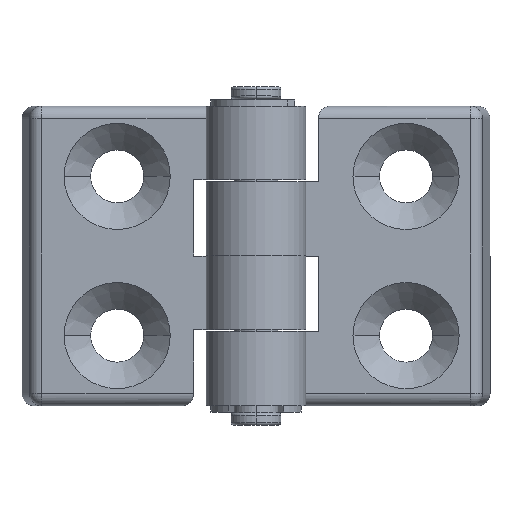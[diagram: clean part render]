
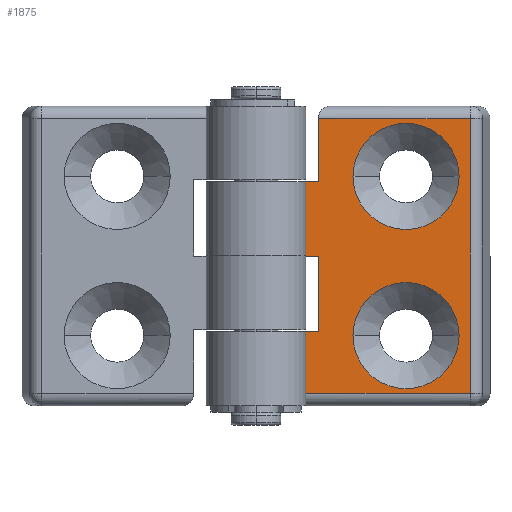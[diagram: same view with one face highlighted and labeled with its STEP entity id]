
A CAD part, top view. The second image highlights one B-rep face of the part: STEP entity #1875.
In plain terms, the highlighted planar face has unit normal (0, 0, 1).
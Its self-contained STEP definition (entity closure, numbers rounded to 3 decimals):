
#19 = CARTESIAN_POINT ( 'NONE',  ( 0., 0., 4. ) ) ;
#32 = EDGE_CURVE ( 'NONE', #2078, #3171, #3427, .T. ) ;
#44 = ORIENTED_EDGE ( 'NONE', *, *, #1597, .T. ) ;
#45 = AXIS2_PLACEMENT_3D ( 'NONE', #3273, #2983, #1356 ) ;
#47 = DIRECTION ( 'NONE',  ( 1., 0., 0. ) ) ;
#70 = CARTESIAN_POINT ( 'NONE',  ( -14.55, 24., 4. ) ) ;
#171 = FACE_BOUND ( 'NONE', #1673, .T. ) ;
#177 = CARTESIAN_POINT ( 'NONE',  ( -7., 12.75, 4. ) ) ;
#185 = VECTOR ( 'NONE', #3009, 1000. ) ;
#249 = CARTESIAN_POINT ( 'NONE',  ( -12.55, 11.9, 4. ) ) ;
#265 = LINE ( 'NONE', #3428, #1626 ) ;
#266 = CARTESIAN_POINT ( 'NONE',  ( -12.55, 22., 4. ) ) ;
#284 = VECTOR ( 'NONE', #2196, 1000. ) ;
#294 = EDGE_CURVE ( 'NONE', #440, #583, #2486, .T. ) ;
#310 = VECTOR ( 'NONE', #338, 1000. ) ;
#338 = DIRECTION ( 'NONE',  ( 0., -1., 0. ) ) ;
#395 = ORIENTED_EDGE ( 'NONE', *, *, #294, .T. ) ;
#439 = FACE_BOUND ( 'NONE', #1311, .T. ) ;
#440 = VERTEX_POINT ( 'NONE', #1737 ) ;
#446 = CARTESIAN_POINT ( 'NONE',  ( 10., 12.75, 4. ) ) ;
#471 = VERTEX_POINT ( 'NONE', #2026 ) ;
#472 = CARTESIAN_POINT ( 'NONE',  ( 0., -12.1, 4. ) ) ;
#474 = ORIENTED_EDGE ( 'NONE', *, *, #884, .T. ) ;
#496 = AXIS2_PLACEMENT_3D ( 'NONE', #1486, #1791, #3387 ) ;
#512 = CIRCLE ( 'NONE', #496, 8.5 ) ;
#524 = ORIENTED_EDGE ( 'NONE', *, *, #2138, .T. ) ;
#531 = VERTEX_POINT ( 'NONE', #2323 ) ;
#552 = EDGE_CURVE ( 'NONE', #3456, #2455, #512, .T. ) ;
#583 = VERTEX_POINT ( 'NONE', #658 ) ;
#612 = AXIS2_PLACEMENT_3D ( 'NONE', #1687, #1362, #47 ) ;
#621 = EDGE_CURVE ( 'NONE', #531, #1733, #265, .T. ) ;
#643 = EDGE_CURVE ( 'NONE', #3336, #1863, #894, .T. ) ;
#651 = CARTESIAN_POINT ( 'NONE',  ( -14.55, -22., 4. ) ) ;
#658 = CARTESIAN_POINT ( 'NONE',  ( -7., -12.75, 4. ) ) ;
#818 = EDGE_CURVE ( 'NONE', #3475, #3171, #2000, .T. ) ;
#834 = EDGE_CURVE ( 'NONE', #1604, #2104, #1824, .T. ) ;
#853 = ORIENTED_EDGE ( 'NONE', *, *, #818, .T. ) ;
#855 = EDGE_CURVE ( 'NONE', #2455, #3456, #1666, .T. ) ;
#884 = EDGE_CURVE ( 'NONE', #2078, #3336, #3120, .T. ) ;
#894 = LINE ( 'NONE', #942, #1530 ) ;
#909 = LINE ( 'NONE', #2725, #185 ) ;
#942 = CARTESIAN_POINT ( 'NONE',  ( 13.45, -22., 4. ) ) ;
#952 = LINE ( 'NONE', #266, #3049 ) ;
#1123 = CARTESIAN_POINT ( 'NONE',  ( 11.79, 0., 4. ) ) ;
#1129 = ORIENTED_EDGE ( 'NONE', *, *, #855, .F. ) ;
#1160 = CARTESIAN_POINT ( 'NONE',  ( 1.5, -12.75, 4. ) ) ;
#1170 = CARTESIAN_POINT ( 'NONE',  ( -12.55, 0., 4. ) ) ;
#1203 = VECTOR ( 'NONE', #3311, 1000. ) ;
#1265 = ORIENTED_EDGE ( 'NONE', *, *, #3151, .T. ) ;
#1311 = EDGE_LOOP ( 'NONE', ( #1450, #1129 ) ) ;
#1356 = DIRECTION ( 'NONE',  ( 1., 0., 0. ) ) ;
#1360 = DIRECTION ( 'NONE',  ( -1., 0., 0. ) ) ;
#1362 = DIRECTION ( 'NONE',  ( 0., 0., 1. ) ) ;
#1368 = LINE ( 'NONE', #1123, #2723 ) ;
#1437 = ORIENTED_EDGE ( 'NONE', *, *, #3147, .F. ) ;
#1448 = DIRECTION ( 'NONE',  ( 1., 0., 0. ) ) ;
#1450 = ORIENTED_EDGE ( 'NONE', *, *, #552, .F. ) ;
#1464 = DIRECTION ( 'NONE',  ( 0., -1., 0. ) ) ;
#1486 = CARTESIAN_POINT ( 'NONE',  ( 1.5, 12.75, 4. ) ) ;
#1530 = VECTOR ( 'NONE', #3149, 1000. ) ;
#1574 = DIRECTION ( 'NONE',  ( 1., 0., 0. ) ) ;
#1576 = VECTOR ( 'NONE', #2758, 1000. ) ;
#1597 = EDGE_CURVE ( 'NONE', #583, #440, #1756, .T. ) ;
#1604 = VERTEX_POINT ( 'NONE', #2638 ) ;
#1626 = VECTOR ( 'NONE', #1464, 1000. ) ;
#1631 = FACE_OUTER_BOUND ( 'NONE', #2479, .T. ) ;
#1642 = CARTESIAN_POINT ( 'NONE',  ( -14.55, 24., 4. ) ) ;
#1660 = CARTESIAN_POINT ( 'NONE',  ( -14.55, 0., 4. ) ) ;
#1666 = CIRCLE ( 'NONE', #612, 8.5 ) ;
#1673 = EDGE_LOOP ( 'NONE', ( #395, #44 ) ) ;
#1687 = CARTESIAN_POINT ( 'NONE',  ( 1.5, 12.75, 4. ) ) ;
#1695 = ORIENTED_EDGE ( 'NONE', *, *, #643, .T. ) ;
#1733 = VERTEX_POINT ( 'NONE', #249 ) ;
#1737 = CARTESIAN_POINT ( 'NONE',  ( 10., -12.75, 4. ) ) ;
#1756 = CIRCLE ( 'NONE', #1817, 8.5 ) ;
#1791 = DIRECTION ( 'NONE',  ( 0., 0., 1. ) ) ;
#1811 = ORIENTED_EDGE ( 'NONE', *, *, #834, .T. ) ;
#1817 = AXIS2_PLACEMENT_3D ( 'NONE', #2928, #3488, #1574 ) ;
#1824 = LINE ( 'NONE', #1642, #310 ) ;
#1863 = VERTEX_POINT ( 'NONE', #2464 ) ;
#1875 = ADVANCED_FACE ( 'NONE', ( #171, #439, #1631 ), #2702, .T. ) ;
#1920 = CARTESIAN_POINT ( 'NONE',  ( -12.55, -12.1, 4. ) ) ;
#2000 = LINE ( 'NONE', #1170, #1203 ) ;
#2026 = CARTESIAN_POINT ( 'NONE',  ( 11.79, 22., 4. ) ) ;
#2075 = CARTESIAN_POINT ( 'NONE',  ( -12.55, 0., 4. ) ) ;
#2078 = VERTEX_POINT ( 'NONE', #2926 ) ;
#2104 = VERTEX_POINT ( 'NONE', #1660 ) ;
#2138 = EDGE_CURVE ( 'NONE', #1863, #471, #1368, .T. ) ;
#2196 = DIRECTION ( 'NONE',  ( 1., 0., 0. ) ) ;
#2323 = CARTESIAN_POINT ( 'NONE',  ( -12.55, 22., 4. ) ) ;
#2356 = LINE ( 'NONE', #19, #284 ) ;
#2424 = DIRECTION ( 'NONE',  ( 0., 1., 0. ) ) ;
#2455 = VERTEX_POINT ( 'NONE', #177 ) ;
#2464 = CARTESIAN_POINT ( 'NONE',  ( 11.79, -22., 4. ) ) ;
#2479 = EDGE_LOOP ( 'NONE', ( #524, #3094, #2572, #1437, #1811, #1265, #853, #3398, #474, #1695 ) ) ;
#2486 = CIRCLE ( 'NONE', #3382, 8.5 ) ;
#2572 = ORIENTED_EDGE ( 'NONE', *, *, #621, .T. ) ;
#2638 = CARTESIAN_POINT ( 'NONE',  ( -14.55, 11.9, 4. ) ) ;
#2702 = PLANE ( 'NONE',  #45 ) ;
#2723 = VECTOR ( 'NONE', #2424, 1000. ) ;
#2725 = CARTESIAN_POINT ( 'NONE',  ( 0., 11.9, 4. ) ) ;
#2758 = DIRECTION ( 'NONE',  ( 0., -1., 0. ) ) ;
#2925 = EDGE_CURVE ( 'NONE', #471, #531, #952, .T. ) ;
#2926 = CARTESIAN_POINT ( 'NONE',  ( -14.55, -12.1, 4. ) ) ;
#2928 = CARTESIAN_POINT ( 'NONE',  ( 1.5, -12.75, 4. ) ) ;
#2983 = DIRECTION ( 'NONE',  ( 0., 0., 1. ) ) ;
#3009 = DIRECTION ( 'NONE',  ( 1., 0., 0. ) ) ;
#3049 = VECTOR ( 'NONE', #1360, 1000. ) ;
#3094 = ORIENTED_EDGE ( 'NONE', *, *, #2925, .T. ) ;
#3107 = DIRECTION ( 'NONE',  ( 0., 0., -1. ) ) ;
#3120 = LINE ( 'NONE', #70, #1576 ) ;
#3147 = EDGE_CURVE ( 'NONE', #1604, #1733, #909, .T. ) ;
#3149 = DIRECTION ( 'NONE',  ( 1., 0., 0. ) ) ;
#3151 = EDGE_CURVE ( 'NONE', #2104, #3475, #2356, .T. ) ;
#3171 = VERTEX_POINT ( 'NONE', #1920 ) ;
#3273 = CARTESIAN_POINT ( 'NONE',  ( 0., 0., 4. ) ) ;
#3311 = DIRECTION ( 'NONE',  ( 0., -1., 0. ) ) ;
#3336 = VERTEX_POINT ( 'NONE', #651 ) ;
#3382 = AXIS2_PLACEMENT_3D ( 'NONE', #1160, #3107, #1448 ) ;
#3387 = DIRECTION ( 'NONE',  ( 1., 0., 0. ) ) ;
#3398 = ORIENTED_EDGE ( 'NONE', *, *, #32, .F. ) ;
#3427 = LINE ( 'NONE', #472, #3520 ) ;
#3428 = CARTESIAN_POINT ( 'NONE',  ( -12.55, 0., 4. ) ) ;
#3456 = VERTEX_POINT ( 'NONE', #446 ) ;
#3475 = VERTEX_POINT ( 'NONE', #2075 ) ;
#3488 = DIRECTION ( 'NONE',  ( 0., 0., -1. ) ) ;
#3491 = DIRECTION ( 'NONE',  ( 1., 0., 0. ) ) ;
#3520 = VECTOR ( 'NONE', #3491, 1000. ) ;
